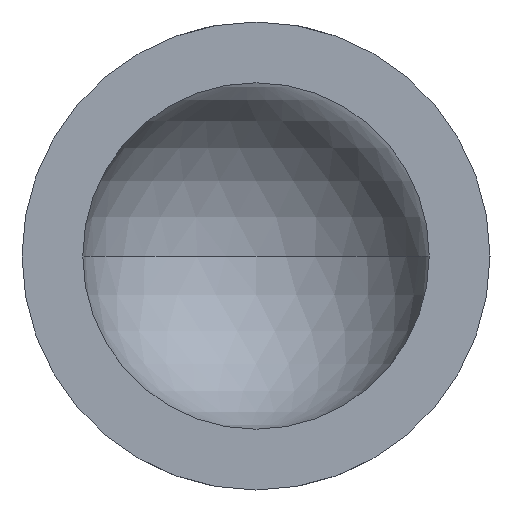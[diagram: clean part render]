
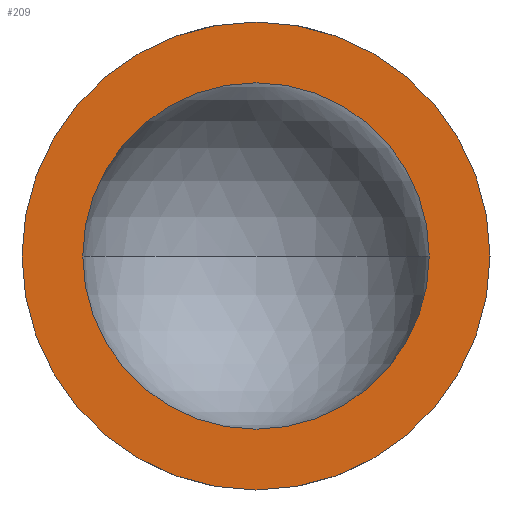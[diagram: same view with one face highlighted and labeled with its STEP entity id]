
A CAD part, front view. The second image highlights one B-rep face of the part: STEP entity #209.
In plain terms, the highlighted planar face has unit normal (0, -1, 0).
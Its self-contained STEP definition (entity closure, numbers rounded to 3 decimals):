
#2 = CARTESIAN_POINT ( 'NONE',  ( -19.05, 0., -6.35 ) ) ;
#3 = CIRCLE ( 'NONE', #156, 4.7 ) ;
#10 = AXIS2_PLACEMENT_3D ( 'NONE', #31, #277, #105 ) ;
#27 = CARTESIAN_POINT ( 'NONE',  ( -19.05, 0., -4.7 ) ) ;
#31 = CARTESIAN_POINT ( 'NONE',  ( -23.75, 0., 0. ) ) ;
#34 = VERTEX_POINT ( 'NONE', #27 ) ;
#42 = AXIS2_PLACEMENT_3D ( 'NONE', #218, #275, #239 ) ;
#45 = ORIENTED_EDGE ( 'NONE', *, *, #245, .T. ) ;
#49 = EDGE_CURVE ( 'NONE', #238, #34, #302, .T. ) ;
#70 = DIRECTION ( 'NONE',  ( 0., 0., -1. ) ) ;
#77 = CARTESIAN_POINT ( 'NONE',  ( -19.05, 0., 0. ) ) ;
#93 = CIRCLE ( 'NONE', #42, 6.35 ) ;
#105 = DIRECTION ( 'NONE',  ( 0., 0., -1. ) ) ;
#114 = DIRECTION ( 'NONE',  ( 0., -1., 0. ) ) ;
#115 = EDGE_LOOP ( 'NONE', ( #200, #154 ) ) ;
#119 = FACE_OUTER_BOUND ( 'NONE', #222, .T. ) ;
#129 = DIRECTION ( 'NONE',  ( 0., -1., 0. ) ) ;
#133 = EDGE_CURVE ( 'NONE', #34, #238, #3, .T. ) ;
#154 = ORIENTED_EDGE ( 'NONE', *, *, #49, .F. ) ;
#156 = AXIS2_PLACEMENT_3D ( 'NONE', #257, #114, #233 ) ;
#157 = VERTEX_POINT ( 'NONE', #278 ) ;
#187 = PLANE ( 'NONE',  #10 ) ;
#192 = CIRCLE ( 'NONE', #195, 6.35 ) ;
#195 = AXIS2_PLACEMENT_3D ( 'NONE', #292, #129, #70 ) ;
#198 = VERTEX_POINT ( 'NONE', #2 ) ;
#200 = ORIENTED_EDGE ( 'NONE', *, *, #133, .F. ) ;
#205 = ORIENTED_EDGE ( 'NONE', *, *, #281, .T. ) ;
#209 = ADVANCED_FACE ( 'NONE', ( #119, #267 ), #187, .T. ) ;
#218 = CARTESIAN_POINT ( 'NONE',  ( -19.05, 0., 0. ) ) ;
#222 = EDGE_LOOP ( 'NONE', ( #45, #205 ) ) ;
#230 = AXIS2_PLACEMENT_3D ( 'NONE', #77, #299, #285 ) ;
#233 = DIRECTION ( 'NONE',  ( 0., 0., -1. ) ) ;
#238 = VERTEX_POINT ( 'NONE', #276 ) ;
#239 = DIRECTION ( 'NONE',  ( 0., 0., -1. ) ) ;
#245 = EDGE_CURVE ( 'NONE', #198, #157, #93, .T. ) ;
#257 = CARTESIAN_POINT ( 'NONE',  ( -19.05, 0., 0. ) ) ;
#267 = FACE_BOUND ( 'NONE', #115, .T. ) ;
#275 = DIRECTION ( 'NONE',  ( 0., -1., 0. ) ) ;
#276 = CARTESIAN_POINT ( 'NONE',  ( -19.05, 0., 4.7 ) ) ;
#277 = DIRECTION ( 'NONE',  ( 0., -1., 0. ) ) ;
#278 = CARTESIAN_POINT ( 'NONE',  ( -19.05, 0., 6.35 ) ) ;
#281 = EDGE_CURVE ( 'NONE', #157, #198, #192, .T. ) ;
#285 = DIRECTION ( 'NONE',  ( 0., 0., -1. ) ) ;
#292 = CARTESIAN_POINT ( 'NONE',  ( -19.05, 0., 0. ) ) ;
#299 = DIRECTION ( 'NONE',  ( 0., -1., 0. ) ) ;
#302 = CIRCLE ( 'NONE', #230, 4.7 ) ;
